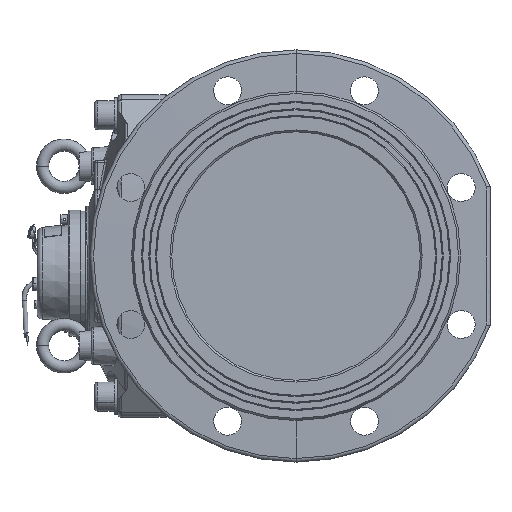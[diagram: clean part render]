
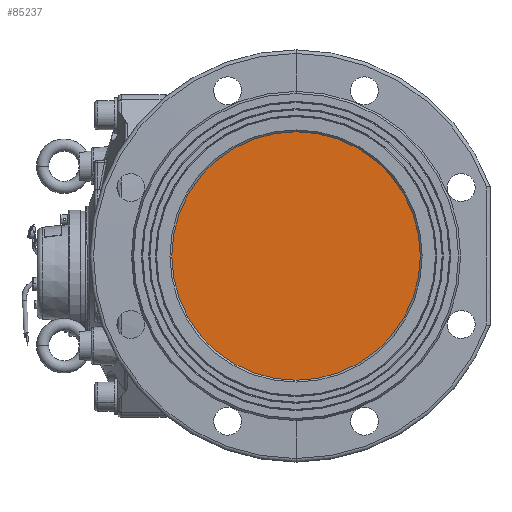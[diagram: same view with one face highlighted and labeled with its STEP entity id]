
A CAD part, left-side view. The second image highlights one B-rep face of the part: STEP entity #85237.
In plain terms, the highlighted planar face has unit normal (-1, 0, 0).
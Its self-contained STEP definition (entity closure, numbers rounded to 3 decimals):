
#7003 = PLANE ( 'NONE',  #70737 ) ;
#13278 = AXIS2_PLACEMENT_3D ( 'NONE', #43569, #85780, #128009 ) ;
#16748 = DIRECTION ( 'NONE',  ( 0., 1., 0. ) ) ;
#19489 = CARTESIAN_POINT ( 'NONE',  ( -173.5, 0., 0. ) ) ;
#30469 = CARTESIAN_POINT ( 'NONE',  ( -173.5, 0., 102.5 ) ) ;
#30884 = ORIENTED_EDGE ( 'NONE', *, *, #41258, .T. ) ;
#35425 = CIRCLE ( 'NONE', #13278, 102.5 ) ;
#41258 = EDGE_CURVE ( 'NONE', #79444, #129756, #102435, .T. ) ;
#43569 = CARTESIAN_POINT ( 'NONE',  ( -173.5, 0., 0. ) ) ;
#49335 = DIRECTION ( 'NONE',  ( 1., 0., 0. ) ) ;
#54109 = DIRECTION ( 'NONE',  ( 0., 0., 1. ) ) ;
#55996 = AXIS2_PLACEMENT_3D ( 'NONE', #137244, #85234, #54109 ) ;
#62448 = EDGE_LOOP ( 'NONE', ( #66033, #30884 ) ) ;
#64911 = EDGE_CURVE ( 'NONE', #129756, #79444, #35425, .T. ) ;
#66033 = ORIENTED_EDGE ( 'NONE', *, *, #64911, .T. ) ;
#70737 = AXIS2_PLACEMENT_3D ( 'NONE', #19489, #49335, #16748 ) ;
#79444 = VERTEX_POINT ( 'NONE', #118154 ) ;
#85234 = DIRECTION ( 'NONE',  ( -1., 0., 0. ) ) ;
#85237 = ADVANCED_FACE ( 'NONE', ( #124733 ), #7003, .F. ) ;
#85780 = DIRECTION ( 'NONE',  ( -1., 0., 0. ) ) ;
#102435 = CIRCLE ( 'NONE', #55996, 102.5 ) ;
#118154 = CARTESIAN_POINT ( 'NONE',  ( -173.5, 0., -102.5 ) ) ;
#124733 = FACE_OUTER_BOUND ( 'NONE', #62448, .T. ) ;
#128009 = DIRECTION ( 'NONE',  ( 0., 0., 1. ) ) ;
#129756 = VERTEX_POINT ( 'NONE', #30469 ) ;
#137244 = CARTESIAN_POINT ( 'NONE',  ( -173.5, 0., 0. ) ) ;
